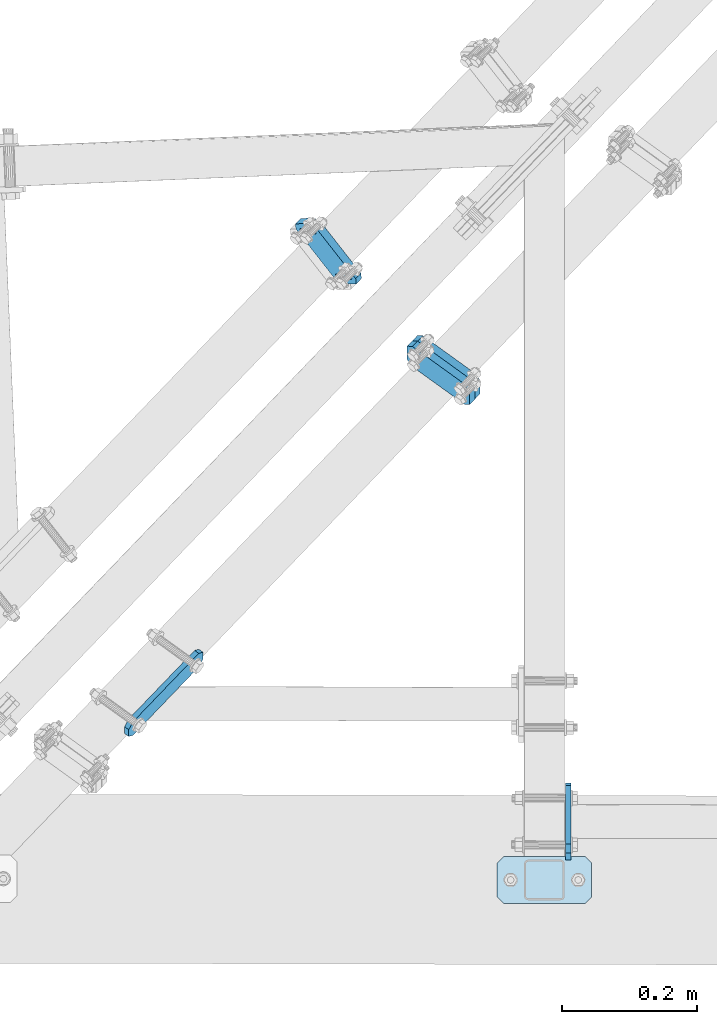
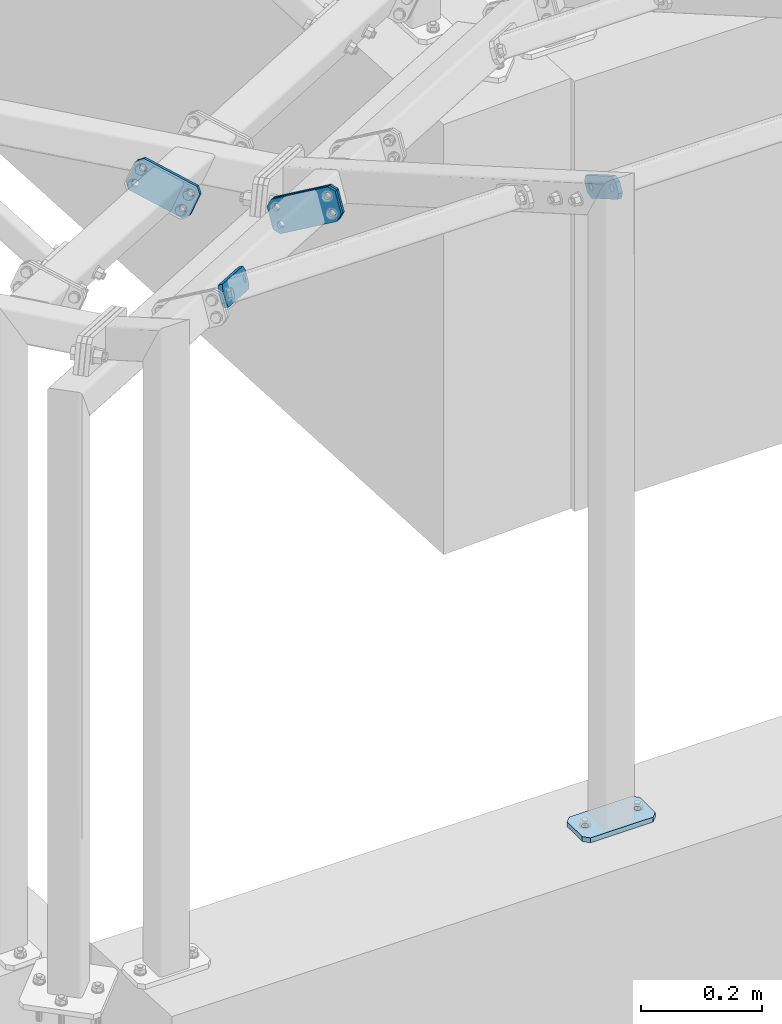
# One storey, part 24 of 288: 6 plates, 42 openings.
"""IFC2X3 building model written with IfcOpenShell, lengths in millimetres."""

import ifcopenshell
import ifcopenshell.guid

model = None  # the IFC model being written
_history = None  # IfcOwnerHistory: only IFC2X3 demands one
_inside = {}  # id of a spatial element -> (the spatial element, [elements in it])
_under = {}  # id of a project, library or spatial element -> (it, [spatial elements below it])
_declared = {}  # id of a project -> (the project, [libraries it declares])
_typed = {}  # id of a type object -> (the type object, [elements of that type])
_made_of = {}  # id of a material, layer set ... -> (it, [elements and type objects made of it])


def new_model(schema):
    """Start an empty IFC model of exactly this schema.

    Asked for "IFC4X3", IfcOpenShell would pick the latest addendum, in which some entities
    have other attributes; the version numbers below select the first issue.
    IFC2X3 requires an IfcOwnerHistory on every rooted entity: one is made here for all.
    """
    global model, _history
    if schema == "IFC4X3":
        model = ifcopenshell.file(schema_version=(4, 3, 0, 0))
    else:
        model = ifcopenshell.file(schema=schema)
    _inside.clear()
    _under.clear()
    _declared.clear()
    _typed.clear()
    _made_of.clear()
    _history = None
    if model.schema == "IFC2X3":
        org = make("IfcOrganization", Name="unknown")
        user = make(
            "IfcPersonAndOrganization",
            ThePerson=make("IfcPerson", FamilyName="unknown"),
            TheOrganization=org,
        )
        app = make(
            "IfcApplication",
            ApplicationDeveloper=org,
            Version="unknown",
            ApplicationFullName="unknown",
            ApplicationIdentifier="unknown",
        )
        _history = make(
            "IfcOwnerHistory",
            OwningUser=user,
            OwningApplication=app,
            ChangeAction="ADDED",
            CreationDate=0,
        )
    return model


def make(cls, **values):
    """One entity of the class cls with the attributes given. An attribute that is None is left unset."""
    return model.create_entity(
        cls, **{name: value for name, value in values.items() if value is not None}
    )


def entity(cls, *values):
    """Any entity or typed value of the class cls, its attributes in the order of the schema. None: left unset."""
    e = model.create_entity(cls)
    for i, value in enumerate(values):
        if value is not None:
            e[i] = value
    return e


def rooted(cls, **values):
    """An entity with a GlobalId (a new one), such as an element, a storey or a relation."""
    return make(cls, GlobalId=ifcopenshell.guid.new(), OwnerHistory=_history, **values)


def si_unit(unit_type, name, prefix=None):
    """IfcSIUnit, for example si_unit("LENGTHUNIT", "METRE", prefix="MILLI")."""
    return make("IfcSIUnit", UnitType=unit_type, Prefix=prefix, Name=name)


def converted_unit(unit_type, name, factor, base, dimensions=None, offset=None):
    """IfcConversionBasedUnit, such as the inch: factor (a typed value) times the base unit."""
    return make(
        "IfcConversionBasedUnit"
        if offset is None
        else "IfcConversionBasedUnitWithOffset",
        ConversionOffset=offset,
        Dimensions=None
        if dimensions is None
        else entity("IfcDimensionalExponents", *dimensions),
        UnitType=unit_type,
        Name=name,
        ConversionFactor=make(
            "IfcMeasureWithUnit", ValueComponent=factor, UnitComponent=base
        ),
    )


def assignment(units):
    """IfcUnitAssignment: the units of a project."""
    return None if units is None else make("IfcUnitAssignment", Units=units)


def point(xyz):
    """IfcCartesianPoint."""
    return None if xyz is None else make("IfcCartesianPoint", Coordinates=xyz)


def direction(xyz):
    """IfcDirection."""
    return None if xyz is None else make("IfcDirection", DirectionRatios=xyz)


def frame(location, z_axis=None, x_axis=None):
    """IfcAxis2Placement3D, a coordinate frame: its origin and axes. An axis left out is left unset."""
    return make(
        "IfcAxis2Placement3D",
        Location=point(location),
        Axis=direction(z_axis),
        RefDirection=direction(x_axis),
    )


def frame_2d(location, x_axis=None):
    """IfcAxis2Placement2D, a coordinate frame in the plane: its origin and x axis."""
    return make(
        "IfcAxis2Placement2D", Location=point(location), RefDirection=direction(x_axis)
    )


def origin():
    """The frame at (0, 0, 0) with its axes left unset."""
    return frame((0.0, 0.0, 0.0))


def origin_with_axes():
    """The frame at (0, 0, 0) with the z axis (0, 0, 1) and the x axis (1, 0, 0) written out."""
    return frame((0.0, 0.0, 0.0), z_axis=(0.0, 0.0, 1.0), x_axis=(1.0, 0.0, 0.0))


def origin_2d_with_axis():
    """The frame at (0, 0) in the plane with the x axis (1, 0) written out."""
    return frame_2d((0.0, 0.0), x_axis=(1.0, 0.0))


def place(relative_to, where):
    """IfcLocalPlacement: puts the frame where relative to a parent placement (None: the world)."""
    return make(
        "IfcLocalPlacement", PlacementRelTo=relative_to, RelativePlacement=where
    )


def context(
    kind, dimensions, precision=None, world=None, true_north=None, identifier=None
):
    """IfcGeometricRepresentationContext, for example the 3D "Model" context."""
    return make(
        "IfcGeometricRepresentationContext",
        ContextIdentifier=identifier,
        ContextType=kind,
        CoordinateSpaceDimension=dimensions,
        Precision=precision,
        WorldCoordinateSystem=world,
        TrueNorth=true_north,
    )


def project(units=None, contexts=None):
    """IfcProject with its units and contexts."""
    return rooted(
        "IfcProject",
        Name="project",
        RepresentationContexts=contexts,
        UnitsInContext=assignment(units),
    )


def spatial(cls, under=None, at=None, **own):
    """A site, building, storey or space (cls), placed at a placement, below another one or the project."""
    s = rooted(cls, ObjectPlacement=at, **own)
    if under is not None:
        _under.setdefault(under.id(), (under, []))[1].append(s)
    return s


def polyline(points):
    """IfcPolyline through the points."""
    return make("IfcPolyline", Points=[point(p) for p in points])


def circle_curve(where, radius):
    """IfcCircle in the frame where."""
    return make("IfcCircle", Position=where, Radius=radius)


def line_curve(start, along, magnitude):
    """IfcLine from a point along a vector."""
    return make(
        "IfcLine",
        Pnt=point(start),
        Dir=make("IfcVector", Orientation=direction(along), Magnitude=magnitude),
    )


def trimmed(basis, trim1, trim2, sense, master):
    """IfcTrimmedCurve: the piece of a basis curve between two trims."""
    return make(
        "IfcTrimmedCurve",
        BasisCurve=basis,
        Trim1=trim1,
        Trim2=trim2,
        SenseAgreement=sense,
        MasterRepresentation=master,
    )


def segment(curve, same_sense, transition):
    """IfcCompositeCurveSegment."""
    return make(
        "IfcCompositeCurveSegment",
        Transition=transition,
        SameSense=same_sense,
        ParentCurve=curve,
    )


def composite_curve(segments, self_intersect=None):
    """IfcCompositeCurve: segments joined end to end."""
    return make("IfcCompositeCurve", Segments=segments, SelfIntersect=self_intersect)


def profile(cls, at=None, kind="AREA", **sizes):
    """A parametric profile (cls). Its sizes go by their IFC names, for example OverallWidth=200.0."""
    return make(cls, ProfileType=kind, Position=at, **sizes)


def circle(**sizes):
    """IfcCircleProfileDef."""
    return profile("IfcCircleProfileDef", **sizes)


def outline(outer, holes=None, kind="AREA"):
    """IfcArbitraryClosedProfileDef: a profile drawn as a closed curve; with holes, ...WithVoids."""
    if holes is None:
        return make("IfcArbitraryClosedProfileDef", ProfileType=kind, OuterCurve=outer)
    return make(
        "IfcArbitraryProfileDefWithVoids",
        ProfileType=kind,
        OuterCurve=outer,
        InnerCurves=holes,
    )


def extrude(swept, where, along, depth):
    """IfcExtrudedAreaSolid: the profile swept, set in the frame where, extruded along a direction by depth."""
    return make(
        "IfcExtrudedAreaSolid",
        SweptArea=swept,
        Position=where,
        ExtrudedDirection=direction(along),
        Depth=depth,
    )


def shape(context_of_items, identifier, shape_type, items):
    """IfcShapeRepresentation: the items that make up one representation, for example the "Body"."""
    return make(
        "IfcShapeRepresentation",
        ContextOfItems=context_of_items,
        RepresentationIdentifier=identifier,
        RepresentationType=shape_type,
        Items=items,
    )


def material(Name=None, Category=None):
    """IfcMaterial."""
    return make("IfcMaterial", Name=Name, Category=Category)


def layer(
    of_material, thickness, ventilated=None, Name=None, Category=None, Priority=None
):
    """IfcMaterialLayer: one layer of a wall or slab, of a material (None: an air gap)."""
    return make(
        "IfcMaterialLayer",
        Material=of_material,
        LayerThickness=thickness,
        IsVentilated=ventilated,
        Name=Name,
        Category=Category,
        Priority=Priority,
    )


def layer_set(layers, Name=None):
    """IfcMaterialLayerSet."""
    return make("IfcMaterialLayerSet", MaterialLayers=layers, LayerSetName=Name)


def made_of(thing, what):
    """Note that an element or type object is made of a material, layer set ...; save() writes the relation."""
    if what is not None:
        _made_of.setdefault(what.id(), (what, []))[1].append(thing)
    return thing


def element(
    cls,
    number,
    at=None,
    inside=None,
    cuts=None,
    type_object=None,
    material=None,
    context=None,
    identifier="Body",
    shape_type=None,
    held_by="IfcProductDefinitionShape",
    body=None,
    shapes=None,
    **own,
):
    """One element of the class cls, such as IfcWall. Its Tag is "e" and its number.

    at: its placement. inside: the storey or other place that contains it. cuts: it is an
    opening in that element (IfcRelVoidsElement). A single representation is given by context,
    identifier, shape_type and body (its items); several are given by shapes. held_by: the class
    of the entity that holds the representations. save() writes the other relations.
    """
    e = rooted(cls, Tag="e%d" % number, ObjectPlacement=at, **own)
    if body is not None:
        shapes = [shape(context, identifier, shape_type, body)]
    if shapes is not None:
        e.Representation = make(held_by, Representations=shapes)
    if inside is not None:
        _inside.setdefault(inside.id(), (inside, []))[1].append(e)
    if cuts is not None:
        rooted(
            "IfcRelVoidsElement", RelatingBuildingElement=cuts, RelatedOpeningElement=e
        )
    if type_object is not None:
        _typed.setdefault(type_object.id(), (type_object, []))[1].append(e)
    return made_of(e, material)


def aggregate(whole, parts):
    """IfcRelAggregates: a whole, such as a stair, and the parts it consists of."""
    return rooted("IfcRelAggregates", RelatingObject=whole, RelatedObjects=parts)


def save(model, path):
    """Write the relations noted so far, then the file.

    IfcRelAggregates (storeys below a building ...), IfcRelContainedInSpatialStructure (elements
    in a storey), IfcRelDefinesByType, IfcRelAssociatesMaterial and IfcRelDeclares: one each for
    every whole, place, type object, material and project.
    """
    for whole, parts in _under.values():
        aggregate(whole, parts)
    for where, things in _inside.values():
        rooted(
            "IfcRelContainedInSpatialStructure",
            RelatedElements=things,
            RelatingStructure=where,
        )
    for kind, things in _typed.values():
        rooted("IfcRelDefinesByType", RelatedObjects=things, RelatingType=kind)
    for what, things in _made_of.values():
        rooted("IfcRelAssociatesMaterial", RelatedObjects=things, RelatingMaterial=what)
    for by, libraries in _declared.values():
        rooted("IfcRelDeclares", RelatingContext=by, RelatedDefinitions=libraries)
    model.write(path)


model = new_model("IFC2X3")

# Units and contexts
model_context = context("Model", 3, precision=1e-09, world=origin_with_axes())
ifc_project = project(units=[si_unit("LENGTHUNIT", "METRE", prefix="MILLI"), si_unit("AREAUNIT", "SQUARE_METRE"), si_unit("VOLUMEUNIT", "CUBIC_METRE"), converted_unit("PLANEANGLEUNIT", "DEGREE", entity("IfcPlaneAngleMeasure", 0.01745329), si_unit("PLANEANGLEUNIT", "RADIAN"), dimensions=[0, 0, 0, 0, 0, 0, 0])], contexts=[model_context])

# Site, building, storey
site_placement = place(None, origin_with_axes())
site = spatial("IfcSite", under=ifc_project, at=site_placement, Name="Remont ?wietlik?w nad MC w NCPP w Opolu", CompositionType="ELEMENT")
building_placement = place(site_placement, origin_with_axes())
building = spatial("IfcBuilding", under=site, at=building_placement, Name="Konstrukcja 1", CompositionType="ELEMENT")
storey_placement = place(building_placement, origin_with_axes())
storey = spatial("IfcBuildingStorey", under=building, at=storey_placement, Name="Default Storey", CompositionType="ELEMENT", Elevation=0.0)

# Plate, openings
ifc_material = material(Name="S235")
ifc_layer_1 = layer(ifc_material, 8.0)
ifc_layer_set_1 = layer_set([ifc_layer_1], Name="S235")
plate_1_placement = place(None, frame((952.67122478, -102.459857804, 1232.652352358), z_axis=(0.999997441, -0.002262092, 1.05e-07), x_axis=(0.001959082, 0.866023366, -0.499999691)))
plate_1 = element("IfcPlate", 1, at=plate_1_placement, inside=storey, material=ifc_layer_set_1, Name="-", ObjectType="-", context=model_context, shape_type="SweptSolid", body=[
    extrude(outline(polyline([(0.0, 0.0), (120.0, 0.0), (120.0, 40.0), (0.0, 40.0), (0.0, 0.0)])), origin_with_axes(), (0.0, 0.0, 1.0), 8.0),
])
opening_1_placement = place(plate_1_placement, frame((0.0, 0.0, -0.01), z_axis=(0.0, 0.0, 1.0), x_axis=(1.0, 0.0, 0.0)))
element("IfcOpeningElement", 2, at=opening_1_placement, cuts=plate_1, ObjectType="Opening", context=model_context, shape_type="SweptSolid", body=[
    extrude(outline(composite_curve([segment(trimmed(line_curve((0.0, 40.0), (0.0, -1.0), 10.0), [point((0.0, 40.0))], [point((0.0, 30.0))], True, "CARTESIAN"), True, "CONTINUOUS"), segment(trimmed(circle_curve(frame_2d((10.0, 30.0), x_axis=(-1.0, 0.0)), 10.0), [point((0.0, 30.0))], [point((10.0, 40.0))], False, "CARTESIAN"), True, "CONTINUOUS"), segment(trimmed(line_curve((10.0, 40.0), (-1.0, 0.0), 10.0), [point((10.0, 40.0))], [point((0.0, 40.0))], True, "CARTESIAN"), True, "CONTINUOUS")], self_intersect=False)), origin(), (0.0, 0.0, 1.0), 8.02),
])
opening_2_placement = place(plate_1_placement, frame((0.0, 0.0, -0.01), z_axis=(0.0, 0.0, 1.0), x_axis=(1.0, 0.0, 0.0)))
element("IfcOpeningElement", 3, at=opening_2_placement, cuts=plate_1, ObjectType="Opening", context=model_context, shape_type="SweptSolid", body=[
    extrude(outline(composite_curve([segment(trimmed(line_curve((0.0, 0.0), (1.0, 0.0), 10.0), [point((0.0, 0.0))], [point((10.0, 0.0))], True, "CARTESIAN"), True, "CONTINUOUS"), segment(trimmed(circle_curve(frame_2d((10.0, 10.0), x_axis=(-1.0, 0.0)), 10.0), [point((10.0, 0.0))], [point((0.0, 10.0))], False, "CARTESIAN"), True, "CONTINUOUS"), segment(trimmed(line_curve((0.0, 10.0), (0.0, -1.0), 10.0), [point((0.0, 10.0))], [point((0.0, 0.0))], True, "CARTESIAN"), True, "CONTINUOUS")], self_intersect=False)), origin(), (0.0, 0.0, 1.0), 8.02),
])
opening_3_placement = place(plate_1_placement, frame((0.0, 0.0, -0.01), z_axis=(0.0, 0.0, 1.0), x_axis=(1.0, 0.0, 0.0)))
element("IfcOpeningElement", 4, at=opening_3_placement, cuts=plate_1, ObjectType="Opening", context=model_context, shape_type="SweptSolid", body=[
    extrude(outline(composite_curve([segment(trimmed(line_curve((120.0, 40.0), (-1.0, 0.0), 10.0), [point((120.0, 40.0))], [point((110.0, 40.0))], True, "CARTESIAN"), True, "CONTINUOUS"), segment(trimmed(circle_curve(frame_2d((110.0, 30.0), x_axis=(-1.0, 0.0)), 10.0), [point((110.0, 40.0))], [point((120.0, 30.0))], False, "CARTESIAN"), True, "CONTINUOUS"), segment(trimmed(line_curve((120.0, 30.0), (0.0, 1.0), 10.0), [point((120.0, 30.0))], [point((120.0, 40.0))], True, "CARTESIAN"), True, "CONTINUOUS")], self_intersect=False)), origin(), (0.0, 0.0, 1.0), 8.02),
])
opening_4_placement = place(plate_1_placement, frame((0.0, 0.0, -0.01), z_axis=(0.0, 0.0, 1.0), x_axis=(1.0, 0.0, 0.0)))
element("IfcOpeningElement", 5, at=opening_4_placement, cuts=plate_1, ObjectType="Opening", context=model_context, shape_type="SweptSolid", body=[
    extrude(outline(composite_curve([segment(trimmed(line_curve((120.0, 0.0), (0.0, 1.0), 10.0), [point((120.0, 0.0))], [point((120.0, 10.0))], True, "CARTESIAN"), True, "CONTINUOUS"), segment(trimmed(circle_curve(frame_2d((110.0, 10.0), x_axis=(-1.0, 0.0)), 10.0), [point((120.0, 10.0))], [point((110.0, 0.0))], False, "CARTESIAN"), True, "CONTINUOUS"), segment(trimmed(line_curve((110.0, 0.0), (1.0, 0.0), 10.0), [point((110.0, 0.0))], [point((120.0, 0.0))], True, "CARTESIAN"), True, "CONTINUOUS")], self_intersect=False)), origin(), (0.0, 0.0, 1.0), 8.02),
])
opening_5_placement = place(plate_1_placement, frame((27.001, 20.0, -0.5), z_axis=(0.0, 0.0, -1.0), x_axis=(-1.0, 0.0, 0.0)))
element("IfcOpeningElement", 6, at=opening_5_placement, cuts=plate_1, ObjectType="Opening", context=model_context, shape_type="SweptSolid", body=[
    extrude(circle(Radius=7.001, at=frame_2d((7.001, 0.0), x_axis=(1.0, 0.0))), origin(), (0.0, 0.0, -1.0), 9.0),
])
opening_6_placement = place(plate_1_placement, frame((107.001, 20.0, -0.5), z_axis=(0.0, 0.0, -1.0), x_axis=(-1.0, 0.0, 0.0)))
element("IfcOpeningElement", 7, at=opening_6_placement, cuts=plate_1, ObjectType="Opening", context=model_context, shape_type="SweptSolid", body=[
    extrude(circle(Radius=7.001, at=frame_2d((7.001, 0.0), x_axis=(1.0, 0.0))), origin(), (0.0, 0.0, -1.0), 9.0),
])

ifc_layer_2 = layer(ifc_material, 12.0)
ifc_layer_set_2 = layer_set([ifc_layer_2], Name="S235")
plate_2_placement = place(None, frame((818.702394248, 608.817071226, 879.772129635), z_axis=(0.639790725, 0.665583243, -0.384274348), x_axis=(0.0, -0.499999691, -0.866025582)))
plate_2 = element("IfcPlate", 8, at=plate_2_placement, inside=storey, material=ifc_layer_set_2, Name="Endplate#1", ObjectType="Endplate#1", context=model_context, shape_type="SweptSolid", body=[
    extrude(outline(polyline([(0.0, 0.0), (60.0, 0.0), (60.0, 120.0), (0.0, 120.0), (0.0, 0.0)])), origin_with_axes(), (0.0, 0.0, 1.0), 12.0),
])
opening_7_placement = place(plate_2_placement, frame((45.0, 60.0, 12.5), z_axis=(0.0, 0.0, -1.0), x_axis=(1.0, 0.0, 0.0)))
element("IfcOpeningElement", 9, at=opening_7_placement, cuts=plate_2, ObjectType="Opening", context=model_context, shape_type="SweptSolid", body=[
    extrude(circle(Radius=6.001, at=frame_2d((0.0, 45.0), x_axis=(1.0, 0.0))), origin(), (0.0, 0.0, 1.0), 13.0),
])
opening_8_placement = place(plate_2_placement, frame((45.0, 60.0, 12.5), z_axis=(0.0, 0.0, -1.0), x_axis=(1.0, 0.0, 0.0)))
element("IfcOpeningElement", 10, at=opening_8_placement, cuts=plate_2, ObjectType="Opening", context=model_context, shape_type="SweptSolid", body=[
    extrude(circle(Radius=6.001, at=frame_2d((0.0, -45.0), x_axis=(1.0, 0.0))), origin(), (0.0, 0.0, 1.0), 13.0),
])
opening_9_placement = place(plate_2_placement, frame((15.0, 60.0, 12.5), z_axis=(0.0, 0.0, -1.0), x_axis=(1.0, 0.0, 0.0)))
element("IfcOpeningElement", 11, at=opening_9_placement, cuts=plate_2, ObjectType="Opening", context=model_context, shape_type="SweptSolid", body=[
    extrude(circle(Radius=6.001, at=frame_2d((0.0, 45.0), x_axis=(1.0, 0.0))), origin(), (0.0, 0.0, 1.0), 13.0),
])
opening_10_placement = place(plate_2_placement, frame((15.0, 60.0, 12.5), z_axis=(0.0, 0.0, -1.0), x_axis=(1.0, 0.0, 0.0)))
element("IfcOpeningElement", 12, at=opening_10_placement, cuts=plate_2, ObjectType="Opening", context=model_context, shape_type="SweptSolid", body=[
    extrude(circle(Radius=6.001, at=frame_2d((0.0, -45.0), x_axis=(1.0, 0.0))), origin(), (0.0, 0.0, 1.0), 13.0),
])
opening_11_placement = place(plate_2_placement, frame((0.0, 0.0, -0.01), z_axis=(0.0, 0.0, 1.0), x_axis=(1.0, 0.0, 0.0)))
element("IfcOpeningElement", 13, at=opening_11_placement, cuts=plate_2, ObjectType="Opening", context=model_context, shape_type="SweptSolid", body=[
    extrude(outline(composite_curve([segment(trimmed(line_curve((0.0, 0.0), (1.0, 0.0), 10.0), [point((0.0, 0.0))], [point((10.0, 0.0))], True, "CARTESIAN"), True, "CONTINUOUS"), segment(trimmed(circle_curve(frame_2d((10.0, 10.0), x_axis=(-1.0, 0.0)), 10.0), [point((10.0, 0.0))], [point((0.0, 10.0))], False, "CARTESIAN"), True, "CONTINUOUS"), segment(trimmed(line_curve((0.0, 10.0), (0.0, -1.0), 10.0), [point((0.0, 10.0))], [point((0.0, 0.0))], True, "CARTESIAN"), True, "CONTINUOUS")], self_intersect=False)), origin(), (0.0, 0.0, 1.0), 12.02),
])
opening_12_placement = place(plate_2_placement, frame((0.0, 0.0, -0.01), z_axis=(0.0, 0.0, 1.0), x_axis=(1.0, 0.0, 0.0)))
element("IfcOpeningElement", 14, at=opening_12_placement, cuts=plate_2, ObjectType="Opening", context=model_context, shape_type="SweptSolid", body=[
    extrude(outline(composite_curve([segment(trimmed(line_curve((60.0, 0.0), (0.0, 1.0), 10.0), [point((60.0, 0.0))], [point((60.0, 10.0))], True, "CARTESIAN"), True, "CONTINUOUS"), segment(trimmed(circle_curve(frame_2d((50.0, 10.0), x_axis=(-1.0, 0.0)), 10.0), [point((60.0, 10.0))], [point((50.0, 0.0))], False, "CARTESIAN"), True, "CONTINUOUS"), segment(trimmed(line_curve((50.0, 0.0), (1.0, 0.0), 10.0), [point((50.0, 0.0))], [point((60.0, 0.0))], True, "CARTESIAN"), True, "CONTINUOUS")], self_intersect=False)), origin(), (0.0, 0.0, 1.0), 12.02),
])
opening_13_placement = place(plate_2_placement, frame((0.0, 0.0, -0.01), z_axis=(0.0, 0.0, 1.0), x_axis=(1.0, 0.0, 0.0)))
element("IfcOpeningElement", 15, at=opening_13_placement, cuts=plate_2, ObjectType="Opening", context=model_context, shape_type="SweptSolid", body=[
    extrude(outline(composite_curve([segment(trimmed(line_curve((60.0, 120.0), (-1.0, 0.0), 10.0), [point((60.0, 120.0))], [point((50.0, 120.0))], True, "CARTESIAN"), True, "CONTINUOUS"), segment(trimmed(circle_curve(frame_2d((50.0, 110.0), x_axis=(-1.0, 0.0)), 10.0), [point((50.0, 120.0))], [point((60.0, 110.0))], False, "CARTESIAN"), True, "CONTINUOUS"), segment(trimmed(line_curve((60.0, 110.0), (0.0, 1.0), 10.0), [point((60.0, 110.0))], [point((60.0, 120.0))], True, "CARTESIAN"), True, "CONTINUOUS")], self_intersect=False)), origin(), (0.0, 0.0, 1.0), 12.02),
])
opening_14_placement = place(plate_2_placement, frame((0.0, 0.0, -0.01), z_axis=(0.0, 0.0, 1.0), x_axis=(1.0, 0.0, 0.0)))
element("IfcOpeningElement", 16, at=opening_14_placement, cuts=plate_2, ObjectType="Opening", context=model_context, shape_type="SweptSolid", body=[
    extrude(outline(composite_curve([segment(trimmed(line_curve((0.0, 120.0), (0.0, -1.0), 10.0), [point((0.0, 120.0))], [point((0.0, 110.0))], True, "CARTESIAN"), True, "CONTINUOUS"), segment(trimmed(circle_curve(frame_2d((10.0, 110.0), x_axis=(-1.0, 0.0)), 10.0), [point((0.0, 110.0))], [point((10.0, 120.0))], False, "CARTESIAN"), True, "CONTINUOUS"), segment(trimmed(line_curve((10.0, 120.0), (-1.0, 0.0), 10.0), [point((10.0, 120.0))], [point((0.0, 120.0))], True, "CARTESIAN"), True, "CONTINUOUS")], self_intersect=False)), origin(), (0.0, 0.0, 1.0), 12.02),
])

plate_3_placement = place(None, frame((811.024905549, 600.830072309, 884.383421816), z_axis=(0.639790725, 0.665583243, -0.384274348), x_axis=(0.0, -0.499999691, -0.866025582)))
plate_3 = element("IfcPlate", 17, at=plate_3_placement, inside=storey, material=ifc_layer_set_2, Name="Endplate#2", ObjectType="Endplate#2", context=model_context, shape_type="SweptSolid", body=[
    extrude(outline(polyline([(0.0, 0.0), (60.0, 0.0), (60.0, 120.0), (0.0, 120.0), (0.0, 0.0)])), origin_with_axes(), (0.0, 0.0, 1.0), 12.0),
])
opening_15_placement = place(plate_3_placement, frame((45.0, 60.0, 12.5), z_axis=(0.0, 0.0, -1.0), x_axis=(1.0, 0.0, 0.0)))
element("IfcOpeningElement", 18, at=opening_15_placement, cuts=plate_3, ObjectType="Opening", context=model_context, shape_type="SweptSolid", body=[
    extrude(circle(Radius=6.001, at=frame_2d((0.0, 45.0), x_axis=(1.0, 0.0))), origin(), (0.0, 0.0, 1.0), 13.0),
])
opening_16_placement = place(plate_3_placement, frame((45.0, 60.0, 12.5), z_axis=(0.0, 0.0, -1.0), x_axis=(1.0, 0.0, 0.0)))
element("IfcOpeningElement", 19, at=opening_16_placement, cuts=plate_3, ObjectType="Opening", context=model_context, shape_type="SweptSolid", body=[
    extrude(circle(Radius=6.001, at=frame_2d((0.0, -45.0), x_axis=(1.0, 0.0))), origin(), (0.0, 0.0, 1.0), 13.0),
])
opening_17_placement = place(plate_3_placement, frame((15.0, 60.0, 12.5), z_axis=(0.0, 0.0, -1.0), x_axis=(1.0, 0.0, 0.0)))
element("IfcOpeningElement", 20, at=opening_17_placement, cuts=plate_3, ObjectType="Opening", context=model_context, shape_type="SweptSolid", body=[
    extrude(circle(Radius=6.001, at=frame_2d((0.0, 45.0), x_axis=(1.0, 0.0))), origin(), (0.0, 0.0, 1.0), 13.0),
])
opening_18_placement = place(plate_3_placement, frame((15.0, 60.0, 12.5), z_axis=(0.0, 0.0, -1.0), x_axis=(1.0, 0.0, 0.0)))
element("IfcOpeningElement", 21, at=opening_18_placement, cuts=plate_3, ObjectType="Opening", context=model_context, shape_type="SweptSolid", body=[
    extrude(circle(Radius=6.001, at=frame_2d((0.0, -45.0), x_axis=(1.0, 0.0))), origin(), (0.0, 0.0, 1.0), 13.0),
])
opening_19_placement = place(plate_3_placement, frame((0.0, 0.0, -0.01), z_axis=(0.0, 0.0, 1.0), x_axis=(1.0, 0.0, 0.0)))
element("IfcOpeningElement", 22, at=opening_19_placement, cuts=plate_3, ObjectType="Opening", context=model_context, shape_type="SweptSolid", body=[
    extrude(outline(composite_curve([segment(trimmed(line_curve((0.0, 0.0), (1.0, 0.0), 10.0), [point((0.0, 0.0))], [point((10.0, 0.0))], True, "CARTESIAN"), True, "CONTINUOUS"), segment(trimmed(circle_curve(frame_2d((10.0, 10.0), x_axis=(-1.0, 0.0)), 10.0), [point((10.0, 0.0))], [point((0.0, 10.0))], False, "CARTESIAN"), True, "CONTINUOUS"), segment(trimmed(line_curve((0.0, 10.0), (0.0, -1.0), 10.0), [point((0.0, 10.0))], [point((0.0, 0.0))], True, "CARTESIAN"), True, "CONTINUOUS")], self_intersect=False)), origin(), (0.0, 0.0, 1.0), 12.02),
])
opening_20_placement = place(plate_3_placement, frame((0.0, 0.0, -0.01), z_axis=(0.0, 0.0, 1.0), x_axis=(1.0, 0.0, 0.0)))
element("IfcOpeningElement", 23, at=opening_20_placement, cuts=plate_3, ObjectType="Opening", context=model_context, shape_type="SweptSolid", body=[
    extrude(outline(composite_curve([segment(trimmed(line_curve((60.0, 0.0), (0.0, 1.0), 10.0), [point((60.0, 0.0))], [point((60.0, 10.0))], True, "CARTESIAN"), True, "CONTINUOUS"), segment(trimmed(circle_curve(frame_2d((50.0, 10.0), x_axis=(-1.0, 0.0)), 10.0), [point((60.0, 10.0))], [point((50.0, 0.0))], False, "CARTESIAN"), True, "CONTINUOUS"), segment(trimmed(line_curve((50.0, 0.0), (1.0, 0.0), 10.0), [point((50.0, 0.0))], [point((60.0, 0.0))], True, "CARTESIAN"), True, "CONTINUOUS")], self_intersect=False)), origin(), (0.0, 0.0, 1.0), 12.02),
])
opening_21_placement = place(plate_3_placement, frame((0.0, 0.0, -0.01), z_axis=(0.0, 0.0, 1.0), x_axis=(1.0, 0.0, 0.0)))
element("IfcOpeningElement", 24, at=opening_21_placement, cuts=plate_3, ObjectType="Opening", context=model_context, shape_type="SweptSolid", body=[
    extrude(outline(composite_curve([segment(trimmed(line_curve((60.0, 120.0), (-1.0, 0.0), 10.0), [point((60.0, 120.0))], [point((50.0, 120.0))], True, "CARTESIAN"), True, "CONTINUOUS"), segment(trimmed(circle_curve(frame_2d((50.0, 110.0), x_axis=(-1.0, 0.0)), 10.0), [point((50.0, 120.0))], [point((60.0, 110.0))], False, "CARTESIAN"), True, "CONTINUOUS"), segment(trimmed(line_curve((60.0, 110.0), (0.0, 1.0), 10.0), [point((60.0, 110.0))], [point((60.0, 120.0))], True, "CARTESIAN"), True, "CONTINUOUS")], self_intersect=False)), origin(), (0.0, 0.0, 1.0), 12.02),
])
opening_22_placement = place(plate_3_placement, frame((0.0, 0.0, -0.01), z_axis=(0.0, 0.0, 1.0), x_axis=(1.0, 0.0, 0.0)))
element("IfcOpeningElement", 25, at=opening_22_placement, cuts=plate_3, ObjectType="Opening", context=model_context, shape_type="SweptSolid", body=[
    extrude(outline(composite_curve([segment(trimmed(line_curve((0.0, 120.0), (0.0, -1.0), 10.0), [point((0.0, 120.0))], [point((0.0, 110.0))], True, "CARTESIAN"), True, "CONTINUOUS"), segment(trimmed(circle_curve(frame_2d((10.0, 110.0), x_axis=(-1.0, 0.0)), 10.0), [point((0.0, 110.0))], [point((10.0, 120.0))], False, "CARTESIAN"), True, "CONTINUOUS"), segment(trimmed(line_curve((10.0, 120.0), (-1.0, 0.0), 10.0), [point((10.0, 120.0))], [point((0.0, 120.0))], True, "CARTESIAN"), True, "CONTINUOUS")], self_intersect=False)), origin(), (0.0, 0.0, 1.0), 12.02),
])

ifc_layer_3 = layer(ifc_material, 10.0)
ifc_layer_set_3 = layer_set([ifc_layer_3], Name="S235")
plate_4_placement = place(None, frame((991.615519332, -92.078002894, 10.000000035), z_axis=(0.0, 0.0, -1.0), x_axis=(2.44e-07, -1.0, 0.0)))
plate_4 = element("IfcPlate", 26, at=plate_4_placement, inside=storey, material=ifc_layer_set_3, Name="Baseplate", ObjectType="Baseplate", context=model_context, shape_type="SweptSolid", body=[
    extrude(outline(polyline([(0.0, 0.0), (70.0, 0.0), (70.0, 140.0), (0.0, 140.0), (0.0, 0.0)])), origin_with_axes(), (0.0, 0.0, 1.0), 10.0),
])
opening_23_placement = place(plate_4_placement, frame((0.0, 0.0, -0.01), z_axis=(0.0, 0.0, 1.0), x_axis=(1.0, 0.0, 0.0)))
element("IfcOpeningElement", 27, at=opening_23_placement, cuts=plate_4, ObjectType="Opening", context=model_context, shape_type="SweptSolid", body=[
    extrude(outline(composite_curve([segment(trimmed(line_curve((70.0, 0.0), (0.0, 1.0), 10.0), [point((70.0, 0.0))], [point((70.0, 10.0))], True, "CARTESIAN"), True, "CONTINUOUS"), segment(trimmed(circle_curve(frame_2d((60.0, 10.0), x_axis=(-1.0, 0.0)), 10.0), [point((70.0, 10.0))], [point((60.0, 0.0))], False, "CARTESIAN"), True, "CONTINUOUS"), segment(trimmed(line_curve((60.0, 0.0), (1.0, 0.0), 10.0), [point((60.0, 0.0))], [point((70.0, 0.0))], True, "CARTESIAN"), True, "CONTINUOUS")], self_intersect=False)), origin(), (0.0, 0.0, 1.0), 10.02),
])
opening_24_placement = place(plate_4_placement, frame((0.0, 0.0, -0.01), z_axis=(0.0, 0.0, 1.0), x_axis=(1.0, 0.0, 0.0)))
element("IfcOpeningElement", 28, at=opening_24_placement, cuts=plate_4, ObjectType="Opening", context=model_context, shape_type="SweptSolid", body=[
    extrude(outline(composite_curve([segment(trimmed(line_curve((0.0, 0.0), (1.0, 0.0), 10.0), [point((0.0, 0.0))], [point((10.0, 0.0))], True, "CARTESIAN"), True, "CONTINUOUS"), segment(trimmed(circle_curve(frame_2d((10.0, 10.0), x_axis=(-1.0, 0.0)), 10.0), [point((10.0, 0.0))], [point((0.0, 10.0))], False, "CARTESIAN"), True, "CONTINUOUS"), segment(trimmed(line_curve((0.0, 10.0), (0.0, -1.0), 10.0), [point((0.0, 10.0))], [point((0.0, 0.0))], True, "CARTESIAN"), True, "CONTINUOUS")], self_intersect=False)), origin(), (0.0, 0.0, 1.0), 10.02),
])
opening_25_placement = place(plate_4_placement, frame((0.0, 0.0, -0.01), z_axis=(0.0, 0.0, 1.0), x_axis=(1.0, 0.0, 0.0)))
element("IfcOpeningElement", 29, at=opening_25_placement, cuts=plate_4, ObjectType="Opening", context=model_context, shape_type="SweptSolid", body=[
    extrude(outline(composite_curve([segment(trimmed(line_curve((70.0, 140.0), (-1.0, 0.0), 10.0), [point((70.0, 140.0))], [point((60.0, 140.0))], True, "CARTESIAN"), True, "CONTINUOUS"), segment(trimmed(circle_curve(frame_2d((60.0, 130.0), x_axis=(-1.0, 0.0)), 10.0), [point((60.0, 140.0))], [point((70.0, 130.0))], False, "CARTESIAN"), True, "CONTINUOUS"), segment(trimmed(line_curve((70.0, 130.0), (0.0, 1.0), 10.0), [point((70.0, 130.0))], [point((70.0, 140.0))], True, "CARTESIAN"), True, "CONTINUOUS")], self_intersect=False)), origin(), (0.0, 0.0, 1.0), 10.02),
])
opening_26_placement = place(plate_4_placement, frame((0.0, 0.0, -0.01), z_axis=(0.0, 0.0, 1.0), x_axis=(1.0, 0.0, 0.0)))
element("IfcOpeningElement", 30, at=opening_26_placement, cuts=plate_4, ObjectType="Opening", context=model_context, shape_type="SweptSolid", body=[
    extrude(outline(composite_curve([segment(trimmed(line_curve((0.0, 140.0), (0.0, -1.0), 10.0), [point((0.0, 140.0))], [point((0.0, 130.0))], True, "CARTESIAN"), True, "CONTINUOUS"), segment(trimmed(circle_curve(frame_2d((10.0, 130.0), x_axis=(-1.0, 0.0)), 10.0), [point((0.0, 130.0))], [point((10.0, 140.0))], False, "CARTESIAN"), True, "CONTINUOUS"), segment(trimmed(line_curve((10.0, 140.0), (-1.0, 0.0), 10.0), [point((10.0, 140.0))], [point((0.0, 140.0))], True, "CARTESIAN"), True, "CONTINUOUS")], self_intersect=False)), origin(), (0.0, 0.0, 1.0), 10.02),
])
opening_27_placement = place(plate_4_placement, frame((35.0, 120.0, 10.5), z_axis=(0.0, 0.0, -1.0), x_axis=(1.0, 0.0, 0.0)))
element("IfcOpeningElement", 31, at=opening_27_placement, cuts=plate_4, ObjectType="Opening", context=model_context, shape_type="SweptSolid", body=[
    extrude(circle(Radius=6.001, at=origin_2d_with_axis()), origin(), (0.0, 0.0, 1.0), 11.0),
])
opening_28_placement = place(plate_4_placement, frame((35.0, 20.0, 10.5), z_axis=(0.0, 0.0, -1.0), x_axis=(1.0, 0.0, 0.0)))
element("IfcOpeningElement", 32, at=opening_28_placement, cuts=plate_4, ObjectType="Opening", context=model_context, shape_type="SweptSolid", body=[
    extrude(circle(Radius=6.001, at=origin_2d_with_axis()), origin(), (0.0, 0.0, 1.0), 11.0),
])

plate_5_placement = place(None, frame((300.732209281, 84.597885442, 1125.462181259), z_axis=(0.768549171, -0.554075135, 0.319895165), x_axis=(0.639790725, 0.665582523, -0.384275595)))
plate_5 = element("IfcPlate", 33, at=plate_5_placement, inside=storey, material=ifc_layer_set_1, Name="-", ObjectType="-", context=model_context, shape_type="SweptSolid", body=[
    extrude(outline(polyline([(0.0, 0.0), (171.990229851, 0.0), (171.990229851, 39.962620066), (0.0, 39.962620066), (0.0, 0.0)])), origin_with_axes(), (0.0, 0.0, 1.0), 8.0),
])
opening_29_placement = place(plate_5_placement, frame((20.014377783, 19.999961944, -0.5), z_axis=(0.0, 0.0, 1.0), x_axis=(1.0, 0.0, 0.0)))
element("IfcOpeningElement", 34, at=opening_29_placement, cuts=plate_5, ObjectType="Opening", context=model_context, shape_type="SweptSolid", body=[
    extrude(circle(Radius=7.001, at=origin_2d_with_axis()), origin(), (0.0, 0.0, 1.0), 9.0),
])
opening_30_placement = place(plate_5_placement, frame((151.990229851, 19.971958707, -0.5), z_axis=(0.0, 0.0, 1.0), x_axis=(1.0, 0.0, 0.0)))
element("IfcOpeningElement", 35, at=opening_30_placement, cuts=plate_5, ObjectType="Opening", context=model_context, shape_type="SweptSolid", body=[
    extrude(circle(Radius=7.001, at=origin_2d_with_axis()), origin(), (0.0, 0.0, 1.0), 9.0),
])
opening_31_placement = place(plate_5_placement, frame((0.0, 0.0, -0.01), z_axis=(0.0, 0.0, 1.0), x_axis=(1.0, 0.0, 0.0)))
element("IfcOpeningElement", 36, at=opening_31_placement, cuts=plate_5, ObjectType="Opening", context=model_context, shape_type="SweptSolid", body=[
    extrude(outline(composite_curve([segment(trimmed(line_curve((0.0, 39.962620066), (0.0, -1.0), 10.0), [point((0.0, 39.962620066))], [point((0.0, 29.962620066))], True, "CARTESIAN"), True, "CONTINUOUS"), segment(trimmed(circle_curve(frame_2d((10.0, 29.962620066), x_axis=(-1.0, 0.0)), 10.0), [point((0.0, 29.962620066))], [point((10.0, 39.962620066))], False, "CARTESIAN"), True, "CONTINUOUS"), segment(trimmed(line_curve((10.0, 39.962620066), (-1.0, 0.0), 10.0), [point((10.0, 39.962620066))], [point((0.0, 39.962620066))], True, "CARTESIAN"), True, "CONTINUOUS")], self_intersect=False)), origin(), (0.0, 0.0, 1.0), 8.02),
])
opening_32_placement = place(plate_5_placement, frame((0.0, 0.0, -0.01), z_axis=(0.0, 0.0, 1.0), x_axis=(1.0, 0.0, 0.0)))
element("IfcOpeningElement", 37, at=opening_32_placement, cuts=plate_5, ObjectType="Opening", context=model_context, shape_type="SweptSolid", body=[
    extrude(outline(composite_curve([segment(trimmed(line_curve((0.0, 0.0), (1.0, 0.0), 10.0), [point((0.0, 0.0))], [point((10.0, 0.0))], True, "CARTESIAN"), True, "CONTINUOUS"), segment(trimmed(circle_curve(frame_2d((10.0, 10.0), x_axis=(-1.0, 0.0)), 10.0), [point((10.0, 0.0))], [point((0.0, 10.0))], False, "CARTESIAN"), True, "CONTINUOUS"), segment(trimmed(line_curve((0.0, 10.0), (0.0, -1.0), 10.0), [point((0.0, 10.0))], [point((0.0, 0.0))], True, "CARTESIAN"), True, "CONTINUOUS")], self_intersect=False)), origin(), (0.0, 0.0, 1.0), 8.02),
])
opening_33_placement = place(plate_5_placement, frame((0.0, 0.0, -0.01), z_axis=(0.0, 0.0, 1.0), x_axis=(1.0, 0.0, 0.0)))
element("IfcOpeningElement", 38, at=opening_33_placement, cuts=plate_5, ObjectType="Opening", context=model_context, shape_type="SweptSolid", body=[
    extrude(outline(composite_curve([segment(trimmed(line_curve((171.990229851, 39.962620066), (-1.0, 0.0), 10.0), [point((171.990229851, 39.962620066))], [point((161.990229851, 39.962620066))], True, "CARTESIAN"), True, "CONTINUOUS"), segment(trimmed(circle_curve(frame_2d((161.990229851, 29.962620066), x_axis=(-1.0, 0.0)), 10.0), [point((161.990229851, 39.962620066))], [point((171.990229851, 29.962620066))], False, "CARTESIAN"), True, "CONTINUOUS"), segment(trimmed(line_curve((171.990229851, 29.962620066), (0.0, 1.0), 10.0), [point((171.990229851, 29.962620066))], [point((171.990229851, 39.962620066))], True, "CARTESIAN"), True, "CONTINUOUS")], self_intersect=False)), origin(), (0.0, 0.0, 1.0), 8.02),
])
opening_34_placement = place(plate_5_placement, frame((0.0, 0.0, -0.01), z_axis=(0.0, 0.0, 1.0), x_axis=(1.0, 0.0, 0.0)))
element("IfcOpeningElement", 39, at=opening_34_placement, cuts=plate_5, ObjectType="Opening", context=model_context, shape_type="SweptSolid", body=[
    extrude(outline(composite_curve([segment(trimmed(line_curve((171.990229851, 0.0), (0.0, 1.0), 10.0), [point((171.990229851, 0.0))], [point((171.990229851, 10.0))], True, "CARTESIAN"), True, "CONTINUOUS"), segment(trimmed(circle_curve(frame_2d((161.990229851, 10.0), x_axis=(-1.0, 0.0)), 10.0), [point((171.990229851, 10.0))], [point((161.990229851, 0.0))], False, "CARTESIAN"), True, "CONTINUOUS"), segment(trimmed(line_curve((161.990229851, 0.0), (1.0, 0.0), 10.0), [point((161.990229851, 0.0))], [point((171.990229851, 0.0))], True, "CARTESIAN"), True, "CONTINUOUS")], self_intersect=False)), origin(), (0.0, 0.0, 1.0), 8.02),
])

plate_6_placement = place(None, frame((548.35171368, 842.857693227, 826.577634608), z_axis=(0.639589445, 0.665373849, -0.384971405), x_axis=(0.499581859, 0.020836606, 0.866016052)))
plate_6 = element("IfcPlate", 40, at=plate_6_placement, inside=storey, material=ifc_layer_set_2, Name="Endplate#1", ObjectType="Endplate#1", context=model_context, shape_type="SweptSolid", body=[
    extrude(outline(polyline([(0.0, 0.0), (60.0, 0.0), (60.0, 120.0), (0.0, 120.0), (0.0, 0.0)])), origin_with_axes(), (0.0, 0.0, 1.0), 12.0),
])
opening_35_placement = place(plate_6_placement, frame((0.0, 0.0, -0.01), z_axis=(0.0, 0.0, 1.0), x_axis=(1.0, 0.0, 0.0)))
element("IfcOpeningElement", 41, at=opening_35_placement, cuts=plate_6, ObjectType="Opening", context=model_context, shape_type="SweptSolid", body=[
    extrude(outline(composite_curve([segment(trimmed(line_curve((0.0, 120.0), (0.0, -1.0), 10.0), [point((0.0, 120.0))], [point((0.0, 110.0))], True, "CARTESIAN"), True, "CONTINUOUS"), segment(trimmed(circle_curve(frame_2d((10.0, 110.0), x_axis=(-1.0, 0.0)), 10.0), [point((0.0, 110.0))], [point((10.0, 120.0))], False, "CARTESIAN"), True, "CONTINUOUS"), segment(trimmed(line_curve((10.0, 120.0), (-1.0, 0.0), 10.0), [point((10.0, 120.0))], [point((0.0, 120.0))], True, "CARTESIAN"), True, "CONTINUOUS")], self_intersect=False)), origin(), (0.0, 0.0, 1.0), 12.02),
])
opening_36_placement = place(plate_6_placement, frame((0.0, 0.0, -0.01), z_axis=(0.0, 0.0, 1.0), x_axis=(1.0, 0.0, 0.0)))
element("IfcOpeningElement", 42, at=opening_36_placement, cuts=plate_6, ObjectType="Opening", context=model_context, shape_type="SweptSolid", body=[
    extrude(outline(composite_curve([segment(trimmed(line_curve((60.0, 120.0), (-1.0, 0.0), 10.0), [point((60.0, 120.0))], [point((50.0, 120.0))], True, "CARTESIAN"), True, "CONTINUOUS"), segment(trimmed(circle_curve(frame_2d((50.0, 110.0), x_axis=(-1.0, 0.0)), 10.0), [point((50.0, 120.0))], [point((60.0, 110.0))], False, "CARTESIAN"), True, "CONTINUOUS"), segment(trimmed(line_curve((60.0, 110.0), (0.0, 1.0), 10.0), [point((60.0, 110.0))], [point((60.0, 120.0))], True, "CARTESIAN"), True, "CONTINUOUS")], self_intersect=False)), origin(), (0.0, 0.0, 1.0), 12.02),
])
opening_37_placement = place(plate_6_placement, frame((0.0, 0.0, -0.01), z_axis=(0.0, 0.0, 1.0), x_axis=(1.0, 0.0, 0.0)))
element("IfcOpeningElement", 43, at=opening_37_placement, cuts=plate_6, ObjectType="Opening", context=model_context, shape_type="SweptSolid", body=[
    extrude(outline(composite_curve([segment(trimmed(line_curve((0.0, 0.0), (1.0, 0.0), 10.0), [point((0.0, 0.0))], [point((10.0, 0.0))], True, "CARTESIAN"), True, "CONTINUOUS"), segment(trimmed(circle_curve(frame_2d((10.0, 10.0), x_axis=(-1.0, 0.0)), 10.0), [point((10.0, 0.0))], [point((0.0, 10.0))], False, "CARTESIAN"), True, "CONTINUOUS"), segment(trimmed(line_curve((0.0, 10.0), (0.0, -1.0), 10.0), [point((0.0, 10.0))], [point((0.0, 0.0))], True, "CARTESIAN"), True, "CONTINUOUS")], self_intersect=False)), origin(), (0.0, 0.0, 1.0), 12.02),
])
opening_38_placement = place(plate_6_placement, frame((0.0, 0.0, -0.01), z_axis=(0.0, 0.0, 1.0), x_axis=(1.0, 0.0, 0.0)))
element("IfcOpeningElement", 44, at=opening_38_placement, cuts=plate_6, ObjectType="Opening", context=model_context, shape_type="SweptSolid", body=[
    extrude(outline(composite_curve([segment(trimmed(line_curve((60.0, 0.0), (0.0, 1.0), 10.0), [point((60.0, 0.0))], [point((60.0, 10.0))], True, "CARTESIAN"), True, "CONTINUOUS"), segment(trimmed(circle_curve(frame_2d((50.0, 10.0), x_axis=(-1.0, 0.0)), 10.0), [point((60.0, 10.0))], [point((50.0, 0.0))], False, "CARTESIAN"), True, "CONTINUOUS"), segment(trimmed(line_curve((50.0, 0.0), (1.0, 0.0), 10.0), [point((50.0, 0.0))], [point((60.0, 0.0))], True, "CARTESIAN"), True, "CONTINUOUS")], self_intersect=False)), origin(), (0.0, 0.0, 1.0), 12.02),
])
opening_39_placement = place(plate_6_placement, frame((15.0, 60.0, 12.5), z_axis=(0.0, 0.0, -1.0), x_axis=(1.0, 0.0, 0.0)))
element("IfcOpeningElement", 45, at=opening_39_placement, cuts=plate_6, ObjectType="Opening", context=model_context, shape_type="SweptSolid", body=[
    extrude(circle(Radius=6.001, at=frame_2d((0.0, 45.0), x_axis=(1.0, 0.0))), origin(), (0.0, 0.0, 1.0), 13.0),
])
opening_40_placement = place(plate_6_placement, frame((15.0, 60.0, 12.5), z_axis=(0.0, 0.0, -1.0), x_axis=(1.0, 0.0, 0.0)))
element("IfcOpeningElement", 46, at=opening_40_placement, cuts=plate_6, ObjectType="Opening", context=model_context, shape_type="SweptSolid", body=[
    extrude(circle(Radius=6.001, at=frame_2d((0.0, -45.0), x_axis=(1.0, 0.0))), origin(), (0.0, 0.0, 1.0), 13.0),
])
opening_41_placement = place(plate_6_placement, frame((45.0, 60.0, 12.5), z_axis=(0.0, 0.0, -1.0), x_axis=(1.0, 0.0, 0.0)))
element("IfcOpeningElement", 47, at=opening_41_placement, cuts=plate_6, ObjectType="Opening", context=model_context, shape_type="SweptSolid", body=[
    extrude(circle(Radius=6.001, at=frame_2d((0.0, 45.0), x_axis=(1.0, 0.0))), origin(), (0.0, 0.0, 1.0), 13.0),
])
opening_42_placement = place(plate_6_placement, frame((45.0, 60.0, 12.5), z_axis=(0.0, 0.0, -1.0), x_axis=(1.0, 0.0, 0.0)))
element("IfcOpeningElement", 48, at=opening_42_placement, cuts=plate_6, ObjectType="Opening", context=model_context, shape_type="SweptSolid", body=[
    extrude(circle(Radius=6.001, at=frame_2d((0.0, -45.0), x_axis=(1.0, 0.0))), origin(), (0.0, 0.0, 1.0), 13.0),
])

save(model, "model.ifc")
